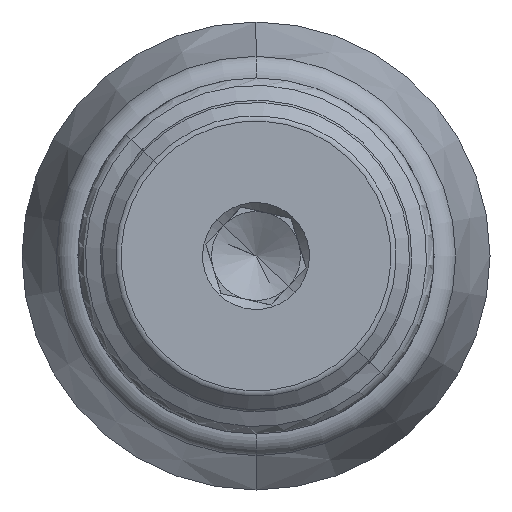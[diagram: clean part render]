
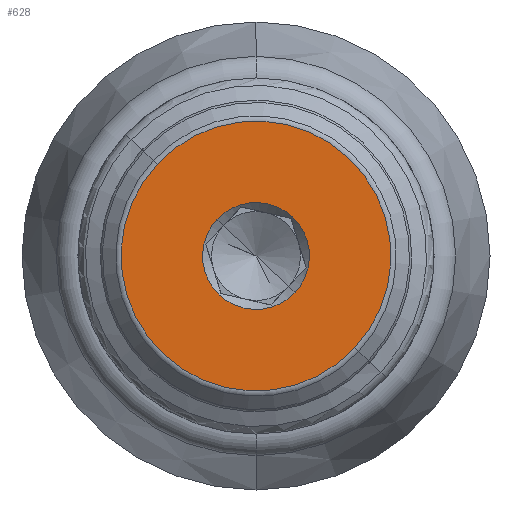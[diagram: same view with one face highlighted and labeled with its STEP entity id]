
A CAD part, left-side view. The second image highlights one B-rep face of the part: STEP entity #628.
In plain terms, the highlighted planar face has unit normal (-1, 0, 0).
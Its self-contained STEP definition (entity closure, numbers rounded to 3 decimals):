
#36 = DIRECTION ( 'NONE',  ( 0., -0.732, -0.681 ) ) ;
#628 = ADVANCED_FACE ( 'NONE', ( #7175, #12073 ), #7277, .T. ) ;
#811 = EDGE_CURVE ( 'NONE', #11003, #966, #9561, .T. ) ;
#966 = VERTEX_POINT ( 'NONE', #3755 ) ;
#1073 = DIRECTION ( 'NONE',  ( -1., 0., 0. ) ) ;
#1198 = CARTESIAN_POINT ( 'NONE',  ( -60.373, 16.15, 0. ) ) ;
#1959 = CARTESIAN_POINT ( 'NONE',  ( -60.373, 16.15, 0. ) ) ;
#2356 = AXIS2_PLACEMENT_3D ( 'NONE', #11282, #6091, #6952 ) ;
#2884 = EDGE_LOOP ( 'NONE', ( #12738, #8305 ) ) ;
#2974 = ORIENTED_EDGE ( 'NONE', *, *, #3917, .T. ) ;
#3261 = VERTEX_POINT ( 'NONE', #4275 ) ;
#3515 = DIRECTION ( 'NONE',  ( 1., 0., 0. ) ) ;
#3755 = CARTESIAN_POINT ( 'NONE',  ( -60.373, 22.805, 6.196 ) ) ;
#3917 = EDGE_CURVE ( 'NONE', #3261, #6854, #12174, .T. ) ;
#4231 = DIRECTION ( 'NONE',  ( 0., 0.732, 0.681 ) ) ;
#4275 = CARTESIAN_POINT ( 'NONE',  ( -60.373, 13.515, -2.453 ) ) ;
#4419 = EDGE_LOOP ( 'NONE', ( #12382, #2974 ) ) ;
#4490 = EDGE_CURVE ( 'NONE', #966, #11003, #11494, .T. ) ;
#5022 = CARTESIAN_POINT ( 'NONE',  ( -60.373, 18.785, 2.453 ) ) ;
#5213 = AXIS2_PLACEMENT_3D ( 'NONE', #1959, #12810, #36 ) ;
#5392 = AXIS2_PLACEMENT_3D ( 'NONE', #9502, #1073, #4231 ) ;
#6091 = DIRECTION ( 'NONE',  ( 1., 0., 0. ) ) ;
#6728 = CIRCLE ( 'NONE', #6821, 3.6 ) ;
#6821 = AXIS2_PLACEMENT_3D ( 'NONE', #1198, #8655, #9746 ) ;
#6854 = VERTEX_POINT ( 'NONE', #5022 ) ;
#6952 = DIRECTION ( 'NONE',  ( 0., -0.732, -0.681 ) ) ;
#7175 = FACE_BOUND ( 'NONE', #4419, .T. ) ;
#7277 = PLANE ( 'NONE',  #5392 ) ;
#8305 = ORIENTED_EDGE ( 'NONE', *, *, #4490, .F. ) ;
#8655 = DIRECTION ( 'NONE',  ( 1., 0., 0. ) ) ;
#9061 = EDGE_CURVE ( 'NONE', #6854, #3261, #6728, .T. ) ;
#9361 = CARTESIAN_POINT ( 'NONE',  ( -60.373, 9.495, -6.196 ) ) ;
#9502 = CARTESIAN_POINT ( 'NONE',  ( -60.373, 9.954, 6.655 ) ) ;
#9561 = CIRCLE ( 'NONE', #12109, 9.093 ) ;
#9746 = DIRECTION ( 'NONE',  ( 0., -0.732, -0.681 ) ) ;
#11003 = VERTEX_POINT ( 'NONE', #9361 ) ;
#11282 = CARTESIAN_POINT ( 'NONE',  ( -60.373, 16.15, 0. ) ) ;
#11494 = CIRCLE ( 'NONE', #5213, 9.093 ) ;
#12029 = CARTESIAN_POINT ( 'NONE',  ( -60.373, 16.15, 0. ) ) ;
#12073 = FACE_OUTER_BOUND ( 'NONE', #2884, .T. ) ;
#12109 = AXIS2_PLACEMENT_3D ( 'NONE', #12029, #3515, #13086 ) ;
#12174 = CIRCLE ( 'NONE', #2356, 3.6 ) ;
#12382 = ORIENTED_EDGE ( 'NONE', *, *, #9061, .T. ) ;
#12738 = ORIENTED_EDGE ( 'NONE', *, *, #811, .F. ) ;
#12810 = DIRECTION ( 'NONE',  ( 1., 0., 0. ) ) ;
#13086 = DIRECTION ( 'NONE',  ( 0., -0.732, -0.681 ) ) ;
